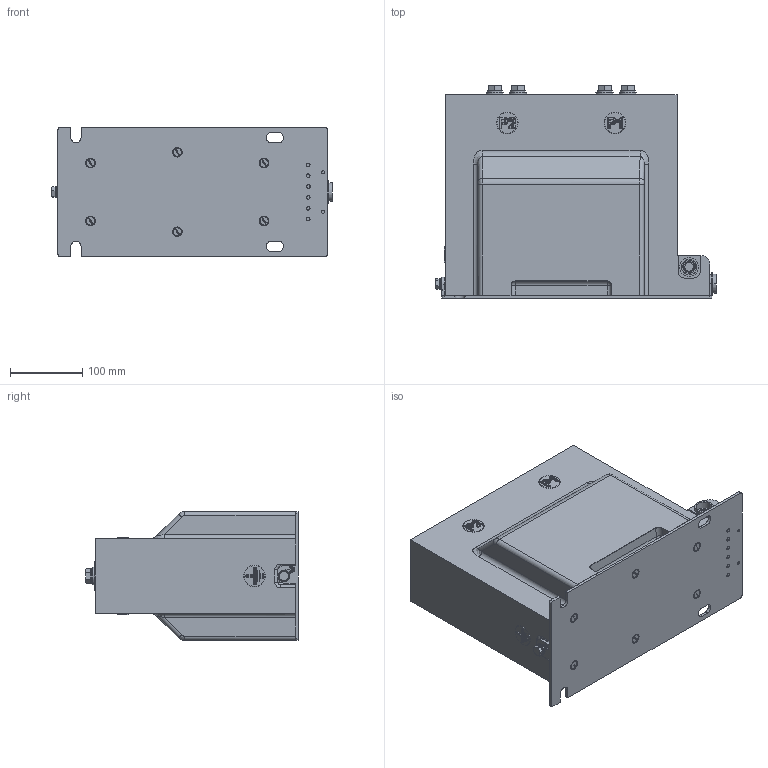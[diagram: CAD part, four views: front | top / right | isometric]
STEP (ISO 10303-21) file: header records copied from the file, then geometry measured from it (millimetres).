
FILE_DESCRIPTION (( 'STEP AP203' ), '1' );
FILE_NAME ('1210000999.STEP', '2017-11-07T10:02:31', ( '' ), ( '' ), 'SwSTEP 2.0', 'SolidWorks 2017', '' );
FILE_SCHEMA (( 'CONFIG_CONTROL_DESIGN' ));
Length unit declared in the file: millimetre
Products named in the file (1): 1210000999
Bounding box: 387.75 x 294.1 x 178.08 mm (x, y, z)
Volume: 12220729.2 mm3; surface area: 487974.7 mm2
Topology: 34 solids, 35 shells, 2414 faces, 5888 edges, 3578 vertices
Faces by surface type: plane 959, cylinder 730, bspline 254, torus 196, cone 155, sphere 120
Entity records: 94823 total; most frequent: CARTESIAN_POINT 39102, DIRECTION 11654, ORIENTED_EDGE 11588, EDGE_CURVE 5794, AXIS2_PLACEMENT_3D 4470, VERTEX_POINT 3578, LINE 2714, VECTOR 2714
